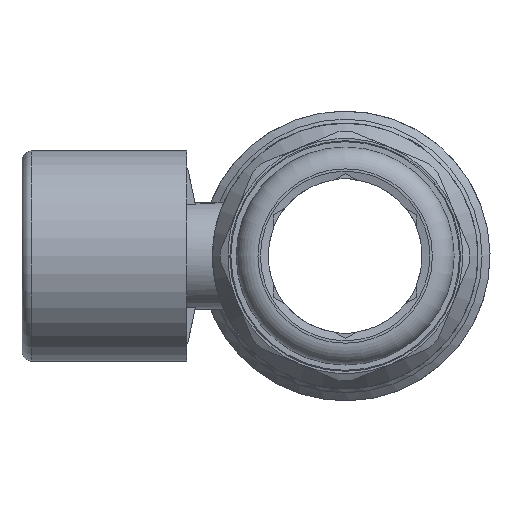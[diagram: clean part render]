
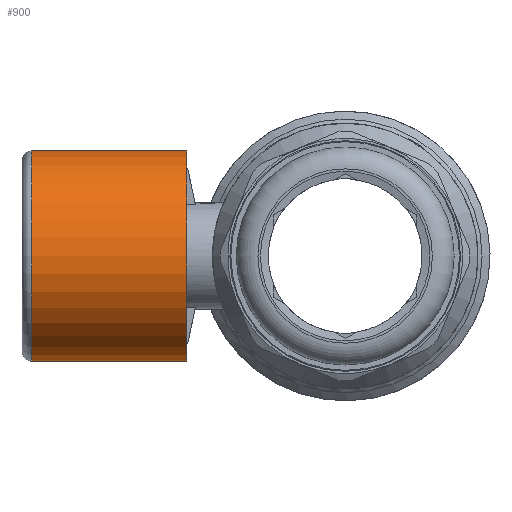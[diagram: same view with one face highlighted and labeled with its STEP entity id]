
A CAD part, left-side view. The second image highlights one B-rep face of the part: STEP entity #900.
In plain terms, the highlighted cylindrical face has radius 21.7 mm (diameter 43.4 mm), a full revolution.
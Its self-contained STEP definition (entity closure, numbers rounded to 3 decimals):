
#858=CARTESIAN_POINT('',(-3.739,64.7,21.375));
#859=VERTEX_POINT('',#858);
#860=CARTESIAN_POINT('',(0.,64.7,0.));
#861=DIRECTION('',(0.0,1.,0.0));
#862=DIRECTION('',(-0.172,0.0,0.985));
#863=AXIS2_PLACEMENT_3D('',#860,#861,#862);
#864=CIRCLE('',#863,21.7);
#865=EDGE_CURVE('',#859,#859,#864,.T.);
#881=CARTESIAN_POINT('',(0.0,48.7,0.0));
#882=DIRECTION('',(0.0,1.0,0.0));
#883=DIRECTION('',(-0.985,0.0,-0.172));
#884=AXIS2_PLACEMENT_3D('',#881,#882,#883);
#885=CYLINDRICAL_SURFACE('',#884,21.7);
#886=CARTESIAN_POINT('',(-3.739,32.7,21.375));
#887=VERTEX_POINT('',#886);
#888=CARTESIAN_POINT('',(0.,32.7,0.));
#889=DIRECTION('',(0.0,1.,0.0));
#890=DIRECTION('',(-0.172,0.0,0.985));
#891=AXIS2_PLACEMENT_3D('',#888,#889,#890);
#892=CIRCLE('',#891,21.7);
#893=EDGE_CURVE('',#887,#887,#892,.T.);
#894=ORIENTED_EDGE('',*,*,#893,.T.);
#895=EDGE_LOOP('',(#894));
#896=FACE_OUTER_BOUND('',#895,.T.);
#897=ORIENTED_EDGE('',*,*,#865,.F.);
#898=EDGE_LOOP('',(#897));
#899=FACE_BOUND('',#898,.T.);
#900=ADVANCED_FACE('',(#896,#899),#885,.T.);
